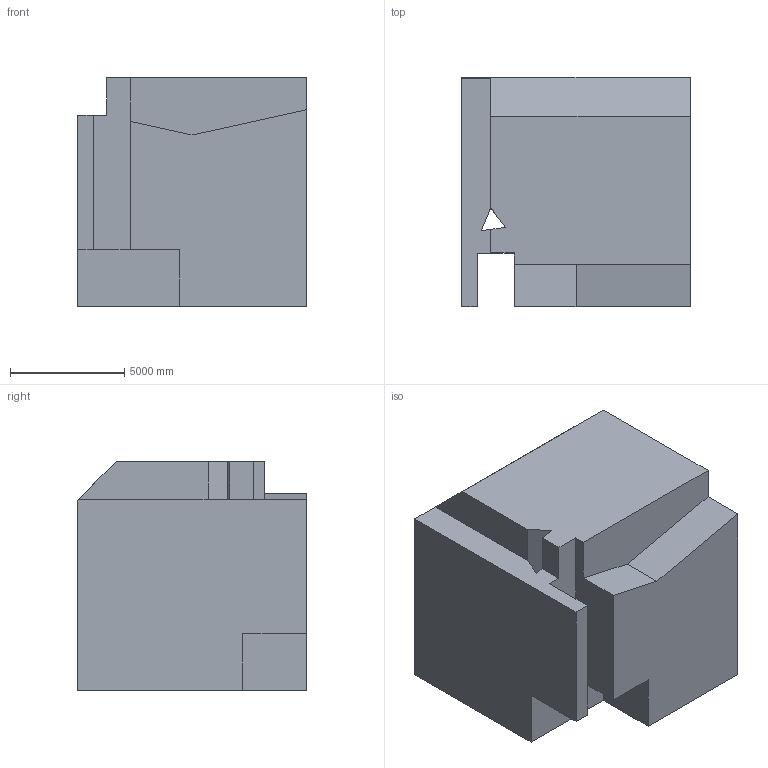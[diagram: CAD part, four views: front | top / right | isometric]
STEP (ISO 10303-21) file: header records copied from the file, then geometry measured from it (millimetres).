
FILE_DESCRIPTION (( 'STEP AP203' ), '1' );
FILE_NAME ('1578.STEP', '2022-08-18T15:55:11', ( 'user' ), ( '' ), 'SwSTEP 2.0', 'SolidWorks 2021', '' );
FILE_SCHEMA (( 'CONFIG_CONTROL_DESIGN' ));
Length unit declared in the file: centimetre
Products named in the file (1): 1578
Bounding box: 10000 x 10000 x 10000 mm (x, y, z)
Volume: 876061897754.1 mm3; surface area: 625593982.4 mm2
Topology: 1 solids, 1 shells, 23 faces, 65 edges, 43 vertices
Faces by surface type: plane 23
Entity records: 812 total; most frequent: CARTESIAN_POINT 132, ORIENTED_EDGE 130, DIRECTION 113, LINE 65, EDGE_CURVE 65, VECTOR 65, VERTEX_POINT 43, EDGE_LOOP 24
